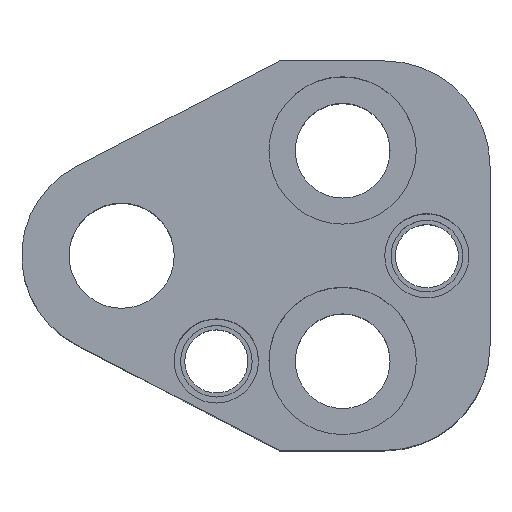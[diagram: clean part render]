
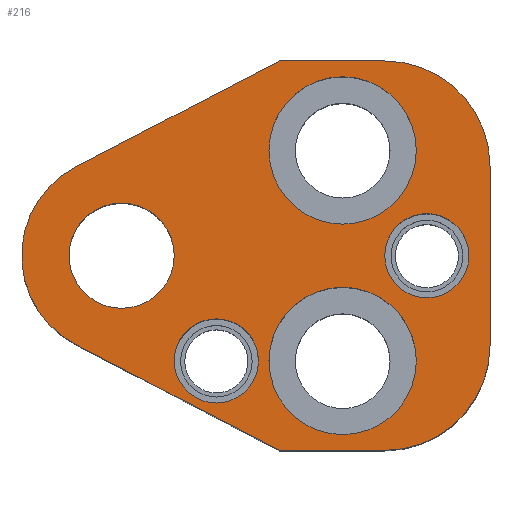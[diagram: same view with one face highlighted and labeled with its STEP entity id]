
A CAD part, top view. The second image highlights one B-rep face of the part: STEP entity #216.
In plain terms, the highlighted planar face has unit normal (0, 0, 1).
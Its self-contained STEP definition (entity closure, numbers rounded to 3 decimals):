
#104=FACE_BOUND('',#309,.T.);
#105=FACE_BOUND('',#310,.T.);
#106=FACE_BOUND('',#311,.T.);
#107=FACE_BOUND('',#312,.T.);
#108=FACE_BOUND('',#313,.T.);
#109=FACE_BOUND('',#314,.T.);
#148=CIRCLE('',#832,10.);
#150=CIRCLE('',#836,10.);
#160=CIRCLE('',#852,7.);
#162=CIRCLE('',#855,7.);
#164=CIRCLE('',#859,7.);
#166=CIRCLE('',#862,7.);
#168=CIRCLE('',#866,9.5);
#169=CIRCLE('',#867,4.);
#170=CIRCLE('',#868,4.);
#171=CIRCLE('',#869,4.);
#172=CIRCLE('',#870,4.);
#173=CIRCLE('',#871,5.);
#174=CIRCLE('',#872,5.);
#216=ADVANCED_FACE('',(#104,#105,#106,#107,#108,#109),#248,.T.);
#248=PLANE('',#873);
#309=EDGE_LOOP('',(#409,#410,#411,#412,#413,#414,#415,#416));
#310=EDGE_LOOP('',(#417,#418));
#311=EDGE_LOOP('',(#419,#420));
#312=EDGE_LOOP('',(#421,#422));
#313=EDGE_LOOP('',(#423,#424));
#314=EDGE_LOOP('',(#425,#426));
#409=ORIENTED_EDGE('',*,*,#627,.T.);
#410=ORIENTED_EDGE('',*,*,#631,.T.);
#411=ORIENTED_EDGE('',*,*,#634,.T.);
#412=ORIENTED_EDGE('',*,*,#637,.T.);
#413=ORIENTED_EDGE('',*,*,#640,.T.);
#414=ORIENTED_EDGE('',*,*,#666,.T.);
#415=ORIENTED_EDGE('',*,*,#667,.T.);
#416=ORIENTED_EDGE('',*,*,#668,.T.);
#417=ORIENTED_EDGE('',*,*,#669,.F.);
#418=ORIENTED_EDGE('',*,*,#670,.F.);
#419=ORIENTED_EDGE('',*,*,#671,.F.);
#420=ORIENTED_EDGE('',*,*,#672,.F.);
#421=ORIENTED_EDGE('',*,*,#664,.F.);
#422=ORIENTED_EDGE('',*,*,#660,.F.);
#423=ORIENTED_EDGE('',*,*,#658,.F.);
#424=ORIENTED_EDGE('',*,*,#654,.F.);
#425=ORIENTED_EDGE('',*,*,#673,.T.);
#426=ORIENTED_EDGE('',*,*,#674,.T.);
#558=VERTEX_POINT('',#1171);
#559=VERTEX_POINT('',#1173);
#562=VERTEX_POINT('',#1180);
#564=VERTEX_POINT('',#1186);
#566=VERTEX_POINT('',#1192);
#568=VERTEX_POINT('',#1198);
#577=VERTEX_POINT('',#1227);
#578=VERTEX_POINT('',#1228);
#581=VERTEX_POINT('',#1240);
#582=VERTEX_POINT('',#1241);
#585=VERTEX_POINT('',#1253);
#586=VERTEX_POINT('',#1255);
#587=VERTEX_POINT('',#1258);
#588=VERTEX_POINT('',#1259);
#589=VERTEX_POINT('',#1262);
#590=VERTEX_POINT('',#1263);
#591=VERTEX_POINT('',#1266);
#592=VERTEX_POINT('',#1267);
#627=EDGE_CURVE('',#559,#558,#731,.T.);
#631=EDGE_CURVE('',#558,#562,#148,.T.);
#634=EDGE_CURVE('',#562,#564,#736,.T.);
#637=EDGE_CURVE('',#564,#566,#150,.T.);
#640=EDGE_CURVE('',#566,#568,#740,.T.);
#654=EDGE_CURVE('',#577,#578,#160,.T.);
#658=EDGE_CURVE('',#578,#577,#162,.T.);
#660=EDGE_CURVE('',#581,#582,#164,.T.);
#664=EDGE_CURVE('',#582,#581,#166,.T.);
#666=EDGE_CURVE('',#568,#585,#750,.T.);
#667=EDGE_CURVE('',#585,#586,#168,.T.);
#668=EDGE_CURVE('',#586,#559,#751,.T.);
#669=EDGE_CURVE('',#587,#588,#169,.T.);
#670=EDGE_CURVE('',#588,#587,#170,.T.);
#671=EDGE_CURVE('',#589,#590,#171,.T.);
#672=EDGE_CURVE('',#590,#589,#172,.T.);
#673=EDGE_CURVE('',#591,#592,#173,.T.);
#674=EDGE_CURVE('',#592,#591,#174,.T.);
#731=LINE('',#1172,#781);
#736=LINE('',#1187,#786);
#740=LINE('',#1199,#790);
#750=LINE('',#1252,#800);
#751=LINE('',#1256,#801);
#781=VECTOR('',#929,1.);
#786=VECTOR('',#942,1.);
#790=VECTOR('',#954,1.);
#800=VECTOR('',#1018,1.);
#801=VECTOR('',#1021,1.);
#832=AXIS2_PLACEMENT_3D('',#1181,#935,#936);
#836=AXIS2_PLACEMENT_3D('',#1193,#947,#948);
#852=AXIS2_PLACEMENT_3D('',#1226,#986,#987);
#855=AXIS2_PLACEMENT_3D('',#1235,#994,#995);
#859=AXIS2_PLACEMENT_3D('',#1239,#1002,#1003);
#862=AXIS2_PLACEMENT_3D('',#1248,#1010,#1011);
#866=AXIS2_PLACEMENT_3D('',#1254,#1019,#1020);
#867=AXIS2_PLACEMENT_3D('',#1257,#1022,#1023);
#868=AXIS2_PLACEMENT_3D('',#1260,#1024,#1025);
#869=AXIS2_PLACEMENT_3D('',#1261,#1026,#1027);
#870=AXIS2_PLACEMENT_3D('',#1264,#1028,#1029);
#871=AXIS2_PLACEMENT_3D('',#1265,#1030,#1031);
#872=AXIS2_PLACEMENT_3D('',#1268,#1032,#1033);
#873=AXIS2_PLACEMENT_3D('',#1269,#1034,#1035);
#929=DIRECTION('',(1.,0.,0.));
#935=DIRECTION('',(0.,0.,1.));
#936=DIRECTION('',(-0.707,0.707,0.));
#942=DIRECTION('',(0.,1.,0.));
#947=DIRECTION('',(0.,0.,1.));
#948=DIRECTION('',(-0.707,-0.707,0.));
#954=DIRECTION('',(-1.,0.,0.));
#986=DIRECTION('',(0.,0.,1.));
#987=DIRECTION('',(-1.,0.,0.));
#994=DIRECTION('',(0.,0.,1.));
#995=DIRECTION('',(1.,0.,0.));
#1002=DIRECTION('',(0.,0.,1.));
#1003=DIRECTION('',(-1.,0.,0.));
#1010=DIRECTION('',(0.,0.,1.));
#1011=DIRECTION('',(1.,0.,0.));
#1018=DIRECTION('',(-0.887,-0.461,0.));
#1019=DIRECTION('',(0.,0.,1.));
#1020=DIRECTION('',(1.,0.,0.));
#1021=DIRECTION('',(0.887,-0.461,0.));
#1022=DIRECTION('',(0.,0.,1.));
#1023=DIRECTION('',(1.,0.,0.));
#1024=DIRECTION('',(0.,0.,1.));
#1025=DIRECTION('',(-1.,0.,0.));
#1026=DIRECTION('',(0.,0.,1.));
#1027=DIRECTION('',(1.,0.,0.));
#1028=DIRECTION('',(0.,0.,1.));
#1029=DIRECTION('',(-1.,0.,0.));
#1030=DIRECTION('',(0.,0.,-1.));
#1031=DIRECTION('',(-1.,0.,0.));
#1032=DIRECTION('',(0.,0.,-1.));
#1033=DIRECTION('',(1.,0.,0.));
#1034=DIRECTION('',(0.,0.,1.));
#1035=DIRECTION('',(0.887,-0.461,0.));
#1171=CARTESIAN_POINT('',(25.,-18.5,35.));
#1172=CARTESIAN_POINT('',(15.,-18.5,35.));
#1173=CARTESIAN_POINT('',(15.,-18.5,35.));
#1180=CARTESIAN_POINT('',(35.,-8.5,35.));
#1181=CARTESIAN_POINT('',(25.,-8.5,35.));
#1186=CARTESIAN_POINT('',(35.,8.5,35.));
#1187=CARTESIAN_POINT('',(35.,8.5,35.));
#1192=CARTESIAN_POINT('',(25.,18.5,35.));
#1193=CARTESIAN_POINT('',(25.,8.5,35.));
#1198=CARTESIAN_POINT('',(15.,18.5,35.));
#1199=CARTESIAN_POINT('',(15.,18.5,35.));
#1226=CARTESIAN_POINT('',(21.,10.,35.));
#1227=CARTESIAN_POINT('',(21.,3.,35.));
#1228=CARTESIAN_POINT('',(21.,17.,35.));
#1235=CARTESIAN_POINT('',(21.,10.,35.));
#1239=CARTESIAN_POINT('',(21.,-10.,35.));
#1240=CARTESIAN_POINT('',(21.,-17.,35.));
#1241=CARTESIAN_POINT('',(21.,-3.,35.));
#1248=CARTESIAN_POINT('',(21.,-10.,35.));
#1252=CARTESIAN_POINT('',(15.,18.5,35.));
#1253=CARTESIAN_POINT('',(-4.38,8.43,35.));
#1254=CARTESIAN_POINT('',(0.,0.,35.));
#1255=CARTESIAN_POINT('',(-4.38,-8.43,35.));
#1256=CARTESIAN_POINT('',(15.,-18.5,35.));
#1257=CARTESIAN_POINT('',(29.,0.,35.));
#1258=CARTESIAN_POINT('',(29.,4.,35.));
#1259=CARTESIAN_POINT('',(29.,-4.,35.));
#1260=CARTESIAN_POINT('',(29.,0.,35.));
#1261=CARTESIAN_POINT('',(9.,-10.,35.));
#1262=CARTESIAN_POINT('',(9.,-6.,35.));
#1263=CARTESIAN_POINT('',(9.,-14.,35.));
#1264=CARTESIAN_POINT('',(9.,-10.,35.));
#1265=CARTESIAN_POINT('',(0.,0.,35.));
#1266=CARTESIAN_POINT('',(0.,5.,35.));
#1267=CARTESIAN_POINT('',(0.,-5.,35.));
#1268=CARTESIAN_POINT('',(0.,0.,35.));
#1269=CARTESIAN_POINT('',(15.,-18.5,35.));
